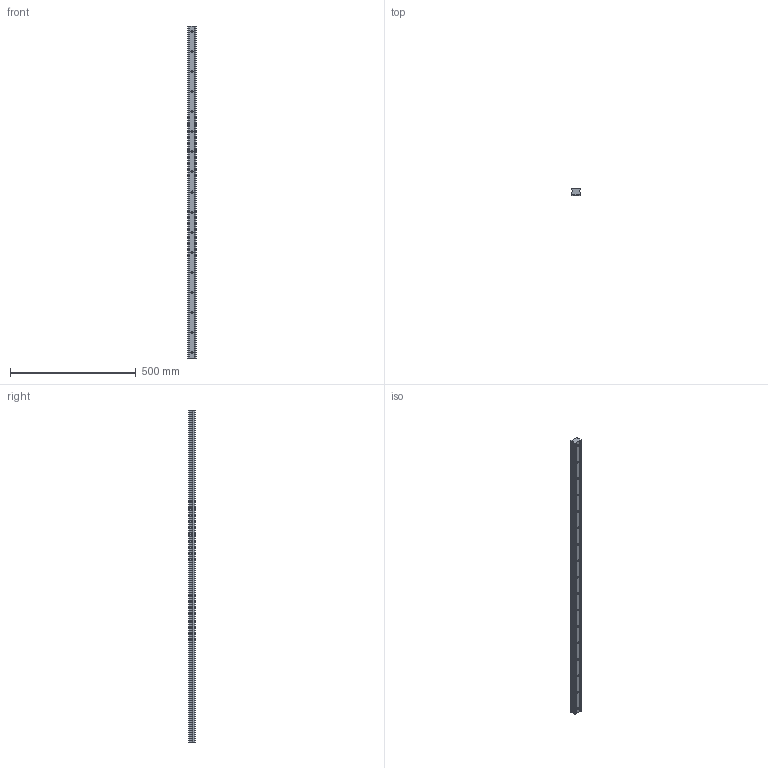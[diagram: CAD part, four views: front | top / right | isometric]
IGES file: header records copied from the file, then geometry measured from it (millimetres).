
Start section: SolidWorks IGES file using analytic representation for surfaces
Global section: file name: C:\Users\IanO\Desktop\Temp File\GENERAL\L1016_v2\L1016.RF35_v2\L1016.RF35_v2_20190612_IGES\L1016.RF35-1320.igs; native system: SolidWorks 2017; preprocessor: SolidWorks 2017; author: IanO; date: 190613.172725; units: millimetre
Bounding box: 34 x 26 x 1320 mm (x, y, z)
Surface area: 172948.1 mm2 (no closed solid volume)
Topology: 0 solids, 0 shells, 145 faces, 2208 edges, 2174 vertices
Faces by surface type: revolution 106, bspline 39
